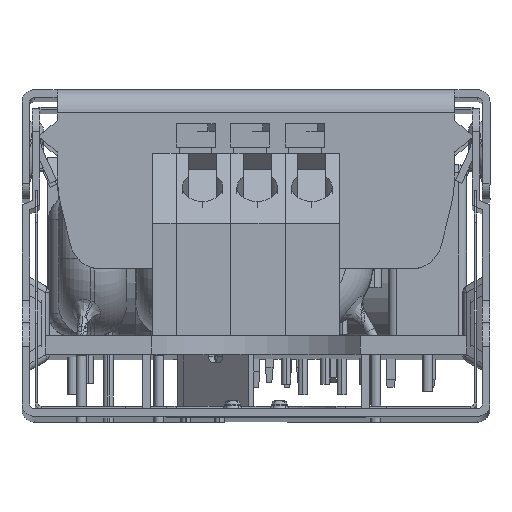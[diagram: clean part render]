
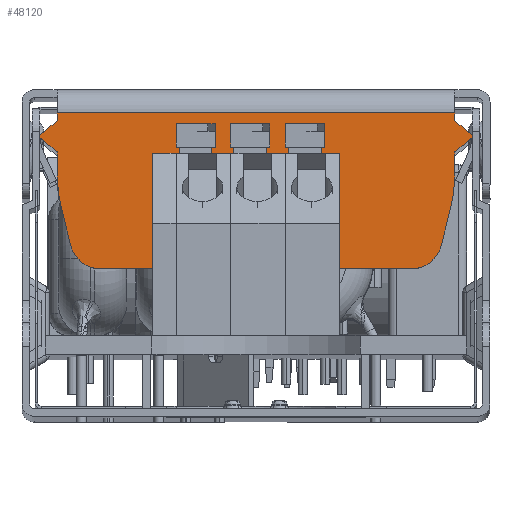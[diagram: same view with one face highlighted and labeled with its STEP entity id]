
A CAD part, top view. The second image highlights one B-rep face of the part: STEP entity #48120.
In plain terms, the highlighted planar face has unit normal (0, 0, 1).
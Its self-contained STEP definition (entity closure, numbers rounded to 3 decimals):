
#659 = CARTESIAN_POINT ( 'NONE',  ( 12.75, 1.5, 80. ) ) ;
#1359 = ORIENTED_EDGE ( 'NONE', *, *, #4696, .F. ) ;
#1800 = DIRECTION ( 'NONE',  ( 1., 0., 0. ) ) ;
#1922 = VERTEX_POINT ( 'NONE', #70457 ) ;
#2443 = VERTEX_POINT ( 'NONE', #137183 ) ;
#3180 = ORIENTED_EDGE ( 'NONE', *, *, #98935, .T. ) ;
#3715 = CARTESIAN_POINT ( 'NONE',  ( -12.75, 1.5, 80. ) ) ;
#3794 = VERTEX_POINT ( 'NONE', #140519 ) ;
#3880 = LINE ( 'NONE', #3715, #97331 ) ;
#4696 = EDGE_CURVE ( 'NONE', #56044, #72702, #93861, .T. ) ;
#5330 = VECTOR ( 'NONE', #56478, 1000. ) ;
#6259 = EDGE_CURVE ( 'NONE', #48670, #93177, #68758, .T. ) ;
#6815 = CARTESIAN_POINT ( 'NONE',  ( -13.925, 3., 80. ) ) ;
#7982 = CARTESIAN_POINT ( 'NONE',  ( -12.75, 4., 80. ) ) ;
#9956 = CARTESIAN_POINT ( 'NONE',  ( -9.938, 11.5, 80. ) ) ;
#11889 = EDGE_CURVE ( 'NONE', #129517, #68181, #47785, .T. ) ;
#12009 = CARTESIAN_POINT ( 'NONE',  ( 12.75, 1.5, 80. ) ) ;
#12857 = CIRCLE ( 'NONE', #109618, 2. ) ;
#14985 = AXIS2_PLACEMENT_3D ( 'NONE', #39848, #52854, #135059 ) ;
#15770 = CARTESIAN_POINT ( 'NONE',  ( 2.75, 5.269, 80. ) ) ;
#15934 = LINE ( 'NONE', #43475, #5330 ) ;
#16799 = CARTESIAN_POINT ( 'NONE',  ( -12.75, 2., 80. ) ) ;
#17199 = DIRECTION ( 'NONE',  ( 0., 0., 1. ) ) ;
#17961 = CARTESIAN_POINT ( 'NONE',  ( -12.451, 7.694, 80. ) ) ;
#18579 = ORIENTED_EDGE ( 'NONE', *, *, #68228, .T. ) ;
#19306 = DIRECTION ( 'NONE',  ( 1., 0., 0. ) ) ;
#19655 = LINE ( 'NONE', #92887, #132448 ) ;
#20680 = CARTESIAN_POINT ( 'NONE',  ( -12.75, 5.269, 80. ) ) ;
#22968 = VECTOR ( 'NONE', #107187, 1000. ) ;
#25103 = DIRECTION ( 'NONE',  ( -0.243, 0.97, 0. ) ) ;
#30014 = DIRECTION ( 'NONE',  ( 0.762, -0.648, 0. ) ) ;
#34687 = FACE_OUTER_BOUND ( 'NONE', #47975, .T. ) ;
#35541 = CARTESIAN_POINT ( 'NONE',  ( 9.938, 11.5, 80. ) ) ;
#36025 = DIRECTION ( 'NONE',  ( -0.762, -0.648, 0. ) ) ;
#37250 = CARTESIAN_POINT ( 'NONE',  ( -2.75, 5.269, 80. ) ) ;
#39079 = AXIS2_PLACEMENT_3D ( 'NONE', #71163, #17199, #1800 ) ;
#39848 = CARTESIAN_POINT ( 'NONE',  ( 12.75, 1.5, 80. ) ) ;
#40797 = VECTOR ( 'NONE', #64926, 1000. ) ;
#41247 = DIRECTION ( 'NONE',  ( -1., 0., 0. ) ) ;
#42197 = LINE ( 'NONE', #12009, #22968 ) ;
#43475 = CARTESIAN_POINT ( 'NONE',  ( -11.5, 11.5, 80. ) ) ;
#47785 = LINE ( 'NONE', #16799, #92553 ) ;
#47975 = EDGE_LOOP ( 'NONE', ( #119557, #49323, #62452, #100393, #110559, #146777, #131072, #139579, #18579, #3180, #88064, #1359, #151420, #77582, #89899, #150897 ) ) ;
#48120 = ADVANCED_FACE ( 'NONE', ( #34687 ), #160577, .T. ) ;
#48670 = VERTEX_POINT ( 'NONE', #106706 ) ;
#49089 = EDGE_CURVE ( 'NONE', #59516, #68827, #76942, .T. ) ;
#49323 = ORIENTED_EDGE ( 'NONE', *, *, #6259, .F. ) ;
#52163 = CARTESIAN_POINT ( 'NONE',  ( -12.75, 1.5, 80. ) ) ;
#52642 = VECTOR ( 'NONE', #41247, 1000. ) ;
#52854 = DIRECTION ( 'NONE',  ( 0., 0., 1. ) ) ;
#55865 = EDGE_CURVE ( 'NONE', #141922, #48670, #85893, .T. ) ;
#56044 = VERTEX_POINT ( 'NONE', #7982 ) ;
#56478 = DIRECTION ( 'NONE',  ( -0.243, -0.97, 0. ) ) ;
#56680 = CARTESIAN_POINT ( 'NONE',  ( 13.925, 3., 80. ) ) ;
#57392 = DIRECTION ( 'NONE',  ( 0., 1., 0. ) ) ;
#57597 = VECTOR ( 'NONE', #57392, 1000. ) ;
#59516 = VERTEX_POINT ( 'NONE', #106320 ) ;
#62452 = ORIENTED_EDGE ( 'NONE', *, *, #55865, .F. ) ;
#64926 = DIRECTION ( 'NONE',  ( 0., 1., 0. ) ) ;
#68181 = VERTEX_POINT ( 'NONE', #6815 ) ;
#68228 = EDGE_CURVE ( 'NONE', #116932, #3794, #12857, .T. ) ;
#68758 = LINE ( 'NONE', #151445, #113679 ) ;
#68827 = VERTEX_POINT ( 'NONE', #52163 ) ;
#70457 = CARTESIAN_POINT ( 'NONE',  ( 12.451, 7.694, 80. ) ) ;
#70716 = CIRCLE ( 'NONE', #39079, 2. ) ;
#71163 = CARTESIAN_POINT ( 'NONE',  ( 9.938, 9.5, 80. ) ) ;
#72702 = VERTEX_POINT ( 'NONE', #20680 ) ;
#73869 = DIRECTION ( 'NONE',  ( 0., 0., 1. ) ) ;
#76934 = LINE ( 'NONE', #78639, #40797 ) ;
#76942 = LINE ( 'NONE', #659, #115446 ) ;
#77582 = ORIENTED_EDGE ( 'NONE', *, *, #11889, .F. ) ;
#78205 = DIRECTION ( 'NONE',  ( 0., 0., 1. ) ) ;
#78639 = CARTESIAN_POINT ( 'NONE',  ( 12.75, 1.5, 80. ) ) ;
#80126 = CIRCLE ( 'NONE', #119920, 10. ) ;
#82333 = VERTEX_POINT ( 'NONE', #167230 ) ;
#85893 = LINE ( 'NONE', #56680, #96537 ) ;
#88064 = ORIENTED_EDGE ( 'NONE', *, *, #116845, .T. ) ;
#89826 = EDGE_CURVE ( 'NONE', #141922, #82333, #42197, .T. ) ;
#89899 = ORIENTED_EDGE ( 'NONE', *, *, #94494, .F. ) ;
#91467 = CIRCLE ( 'NONE', #105380, 10. ) ;
#92553 = VECTOR ( 'NONE', #115632, 1000. ) ;
#92887 = CARTESIAN_POINT ( 'NONE',  ( 11.5, 11.5, 80. ) ) ;
#93177 = VERTEX_POINT ( 'NONE', #149359 ) ;
#93861 = LINE ( 'NONE', #153818, #57597 ) ;
#93930 = DIRECTION ( 'NONE',  ( -1., 0., 0. ) ) ;
#94494 = EDGE_CURVE ( 'NONE', #68827, #129517, #3880, .T. ) ;
#96537 = VECTOR ( 'NONE', #30014, 1000. ) ;
#97331 = VECTOR ( 'NONE', #153493, 1000. ) ;
#98935 = EDGE_CURVE ( 'NONE', #3794, #146449, #15934, .T. ) ;
#100393 = ORIENTED_EDGE ( 'NONE', *, *, #89826, .T. ) ;
#101456 = CARTESIAN_POINT ( 'NONE',  ( -13.925, 3., 80. ) ) ;
#102031 = DIRECTION ( 'NONE',  ( 0.762, 0.648, 0. ) ) ;
#105380 = AXIS2_PLACEMENT_3D ( 'NONE', #37250, #78205, #159721 ) ;
#106320 = CARTESIAN_POINT ( 'NONE',  ( 12.75, 1.5, 80. ) ) ;
#106706 = CARTESIAN_POINT ( 'NONE',  ( 13.925, 3., 80. ) ) ;
#107187 = DIRECTION ( 'NONE',  ( 0., 1., 0. ) ) ;
#109618 = AXIS2_PLACEMENT_3D ( 'NONE', #142920, #73869, #19306 ) ;
#110559 = ORIENTED_EDGE ( 'NONE', *, *, #141570, .T. ) ;
#113679 = VECTOR ( 'NONE', #36025, 1000. ) ;
#115273 = VERTEX_POINT ( 'NONE', #35541 ) ;
#115446 = VECTOR ( 'NONE', #93930, 1000. ) ;
#115632 = DIRECTION ( 'NONE',  ( -0.762, 0.648, 0. ) ) ;
#116845 = EDGE_CURVE ( 'NONE', #146449, #72702, #91467, .T. ) ;
#116932 = VERTEX_POINT ( 'NONE', #9956 ) ;
#119557 = ORIENTED_EDGE ( 'NONE', *, *, #160359, .T. ) ;
#119920 = AXIS2_PLACEMENT_3D ( 'NONE', #15770, #153027, #166688 ) ;
#123515 = EDGE_CURVE ( 'NONE', #2443, #115273, #70716, .T. ) ;
#124255 = EDGE_CURVE ( 'NONE', #1922, #2443, #19655, .T. ) ;
#126671 = CARTESIAN_POINT ( 'NONE',  ( -12.75, 2., 80. ) ) ;
#128601 = EDGE_CURVE ( 'NONE', #115273, #116932, #161247, .T. ) ;
#129517 = VERTEX_POINT ( 'NONE', #126671 ) ;
#131072 = ORIENTED_EDGE ( 'NONE', *, *, #123515, .T. ) ;
#132448 = VECTOR ( 'NONE', #25103, 1000. ) ;
#134679 = CARTESIAN_POINT ( 'NONE',  ( 12.75, 11.5, 80. ) ) ;
#135059 = DIRECTION ( 'NONE',  ( 1., 0., 0. ) ) ;
#137183 = CARTESIAN_POINT ( 'NONE',  ( 11.879, 9.985, 80. ) ) ;
#138076 = EDGE_CURVE ( 'NONE', #68181, #56044, #175039, .T. ) ;
#138906 = VECTOR ( 'NONE', #102031, 1000. ) ;
#139579 = ORIENTED_EDGE ( 'NONE', *, *, #128601, .T. ) ;
#140519 = CARTESIAN_POINT ( 'NONE',  ( -11.879, 9.985, 80. ) ) ;
#141570 = EDGE_CURVE ( 'NONE', #82333, #1922, #80126, .T. ) ;
#141922 = VERTEX_POINT ( 'NONE', #151660 ) ;
#142920 = CARTESIAN_POINT ( 'NONE',  ( -9.938, 9.5, 80. ) ) ;
#146449 = VERTEX_POINT ( 'NONE', #17961 ) ;
#146777 = ORIENTED_EDGE ( 'NONE', *, *, #124255, .T. ) ;
#149359 = CARTESIAN_POINT ( 'NONE',  ( 12.75, 2., 80. ) ) ;
#150897 = ORIENTED_EDGE ( 'NONE', *, *, #49089, .F. ) ;
#151420 = ORIENTED_EDGE ( 'NONE', *, *, #138076, .F. ) ;
#151445 = CARTESIAN_POINT ( 'NONE',  ( 12.75, 2., 80. ) ) ;
#151660 = CARTESIAN_POINT ( 'NONE',  ( 12.75, 4., 80. ) ) ;
#153027 = DIRECTION ( 'NONE',  ( 0., 0., 1. ) ) ;
#153493 = DIRECTION ( 'NONE',  ( 0., 1., 0. ) ) ;
#153818 = CARTESIAN_POINT ( 'NONE',  ( -12.75, 1.5, 80. ) ) ;
#159721 = DIRECTION ( 'NONE',  ( 1., 0., 0. ) ) ;
#160359 = EDGE_CURVE ( 'NONE', #59516, #93177, #76934, .T. ) ;
#160577 = PLANE ( 'NONE',  #14985 ) ;
#161247 = LINE ( 'NONE', #134679, #52642 ) ;
#166688 = DIRECTION ( 'NONE',  ( 1., 0., 0. ) ) ;
#167230 = CARTESIAN_POINT ( 'NONE',  ( 12.75, 5.269, 80. ) ) ;
#175039 = LINE ( 'NONE', #101456, #138906 ) ;
